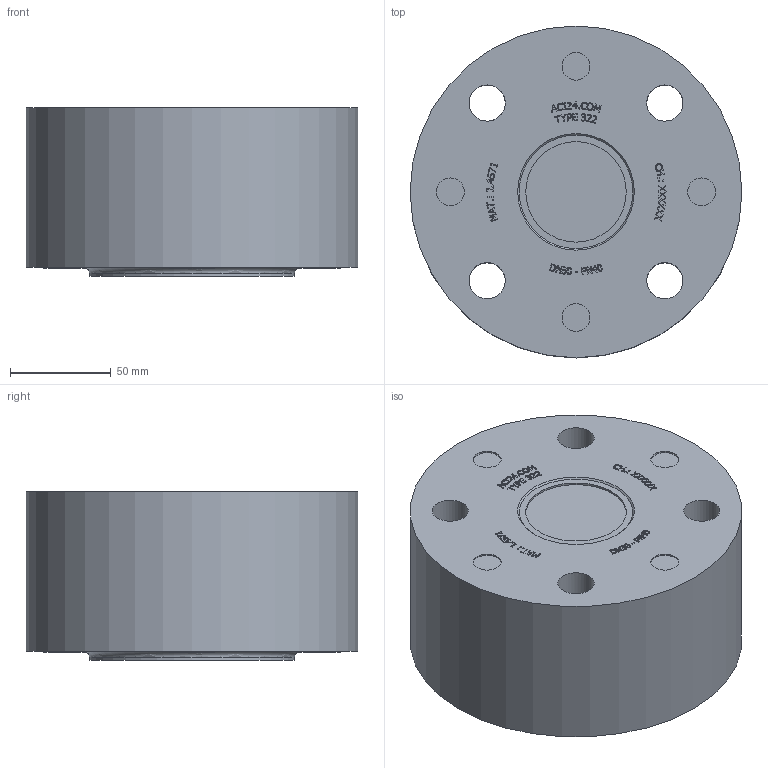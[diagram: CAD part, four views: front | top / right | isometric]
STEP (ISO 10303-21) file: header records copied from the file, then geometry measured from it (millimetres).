
FILE_DESCRIPTION(/* description */ ('ACI TYPE 322 DN 50 PN40'),/* implementation_level */ '2;1');
FILE_NAME(/* name */ 'W:\Konstruktion_ACI\322\ACI-322-50-40.stp',/* time_stamp */ '2020-04-21T10:44:42+02:00',/* author */ ('Götz'),/* organization */ ('ACI Industriearmaturen GmbH info@aci24.com www.aci24.com'),/* preprocessor_version */ 'ST-DEVELOPER v16.1',/* originating_system */ 'Autodesk Inventor 2016',/* authorisation */ 'ACI Industriearmaturen GmbH info@aci24.com www.aci24.com');
FILE_SCHEMA (('CONFIG_CONTROL_DESIGN'));
Length unit declared in the file: centimetre
Products named in the file (1): ACI-322-50-40
Bounding box: 165 x 165 x 84 mm (x, y, z)
Volume: 1643601.7 mm3; surface area: 102263.7 mm2
Topology: 1 solids, 1 shells, 693 faces, 1880 edges, 1260 vertices
Faces by surface type: plane 481, bspline 194, cylinder 12, torus 5, cone 1
Full cylindrical faces by diameter (mm): 13.835 x4, 18 x4, 50 x2, 102 x1, 165 x1
Entity records: 23511 total; most frequent: CARTESIAN_POINT 6664, ORIENTED_EDGE 3712, DIRECTION 2518, EDGE_CURVE 1856, LINE 1410, VECTOR 1410, VERTEX_POINT 1250, EDGE_LOOP 786
